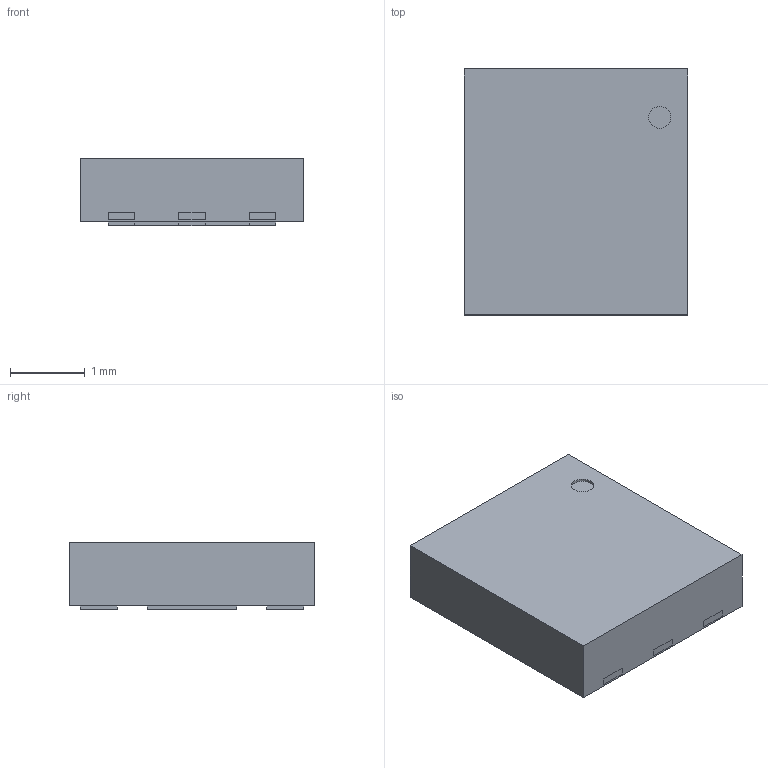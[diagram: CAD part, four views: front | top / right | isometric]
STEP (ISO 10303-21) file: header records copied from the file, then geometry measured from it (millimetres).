
FILE_DESCRIPTION(/* description */ ('Unknown'),/* implementation_level */ '2;1');
FILE_NAME(/* name */ 'NCV8402AMNWT1G',/* time_stamp */ '2024-02-01T11:32:10+02:00',/* author */ ('Unknown'),/* organization */ ('Unknown'),/* preprocessor_version */ 'ST-DEVELOPER v18.102',/* originating_system */ 'Solid Edge',/* authorisation */ 'Unknown');
FILE_SCHEMA (('AUTOMOTIVE_DESIGN {1 0 10303 214 3 1 1}'));
Length unit declared in the file: millimetre
Products named in the file (1): NCV8402AMNWT1G
Bounding box: 3 x 3.3 x 0.9 mm (x, y, z)
Volume: 8.6 mm3; surface area: 31.4 mm2
Topology: 1 solids, 1 shells, 50 faces, 126 edges, 92 vertices
Faces by surface type: plane 49, cylinder 1
Full cylindrical faces by diameter (mm): 0.296 x1
Entity records: 1873 total; most frequent: CARTESIAN_POINT 268, ORIENTED_EDGE 250, DIRECTION 229, EDGE_CURVE 125, LINE 123, VECTOR 123, VERTEX_POINT 92, EDGE_LOOP 65
